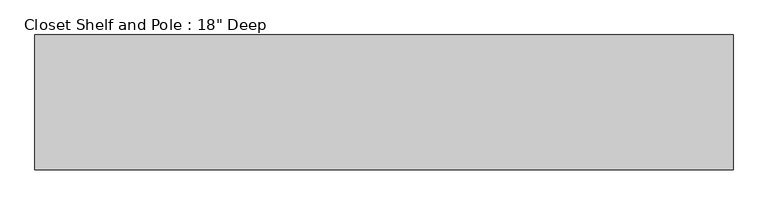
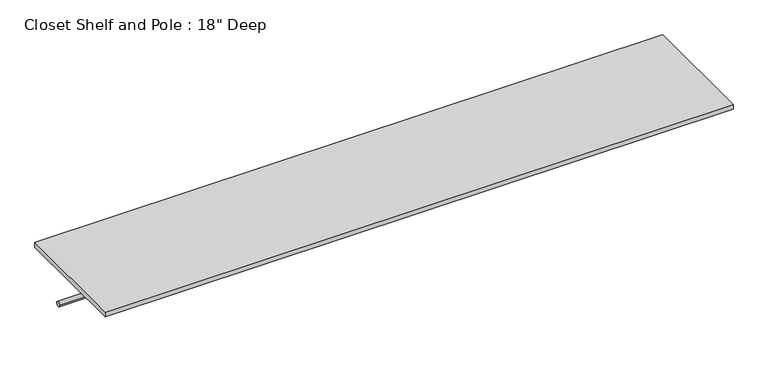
"""IFC4 building model written with IfcOpenShell, lengths in millimetres: proxy geometry."""

from ifc_helpers import new_model, si_unit, point, frame, frame_2d, origin, place, context, project, spatial, polyline, circle_curve, trimmed, segment, composite_curve, outline, extrude, source, transform, mapped, element, save


def proxy_fd232a78(model_context):
    return source(origin(), model_context, "Body", "SweptSolid", [
        extrude(outline(composite_curve([segment(trimmed(circle_curve(frame_2d((304.8, 1676.4)), 9.525), [point((314.325, 1676.4))], [point((295.275, 1676.4))], False, "CARTESIAN"), True, "CONTINUOUS"), segment(trimmed(circle_curve(frame_2d((304.8, 1676.4)), 9.525), [point((295.275, 1676.4))], [point((314.325, 1676.4))], False, "CARTESIAN"), True, "CONTINUOUS")], self_intersect=False)), frame((0.0, 0.0, 0.0), z_axis=(1.0, 0.0, 0.0), x_axis=(0.0, 1.0, 0.0)), (0.0, 0.0, 1.0), 2365.375),
        extrude(outline(polyline([(2365.375, 0.0), (0.0, 0.0), (0.0, 457.2), (2365.375, 457.2), (2365.375, 0.0)])), frame((0.0, 0.0, 1809.75), z_axis=(0.0, 0.0, 1.0), x_axis=(1.0, 0.0, 0.0)), (0.0, 0.0, 1.0), 19.05),
    ])


if __name__ == "__main__":
    model = new_model("IFC4")
    model_context = context("Model", 3, world=origin())
    ifc_project = project(units=[si_unit("LENGTHUNIT", "METRE", prefix="MILLI")], contexts=[model_context])
    site = spatial("IfcSite", under=ifc_project)
    building = spatial("IfcBuilding", under=site)
    placement = place(None, origin())
    proxy_shape = proxy_fd232a78(model_context)
    element("IfcBuildingElementProxy", 1, Name="Closet Shelf and Pole : 18\" Deep", ObjectType="Closet Shelf and Pole : 18\" Deep", at=placement, inside=building, context=model_context, shape_type="MappedRepresentation", body=[
        mapped(proxy_shape, transform((0.0, 0.0, 0.0), x_axis=(1.0, 0.0, 0.0), y_axis=(0.0, 1.0, 0.0), z_axis=(0.0, 0.0, 1.0))),
    ])
    save(model, "model.ifc")
